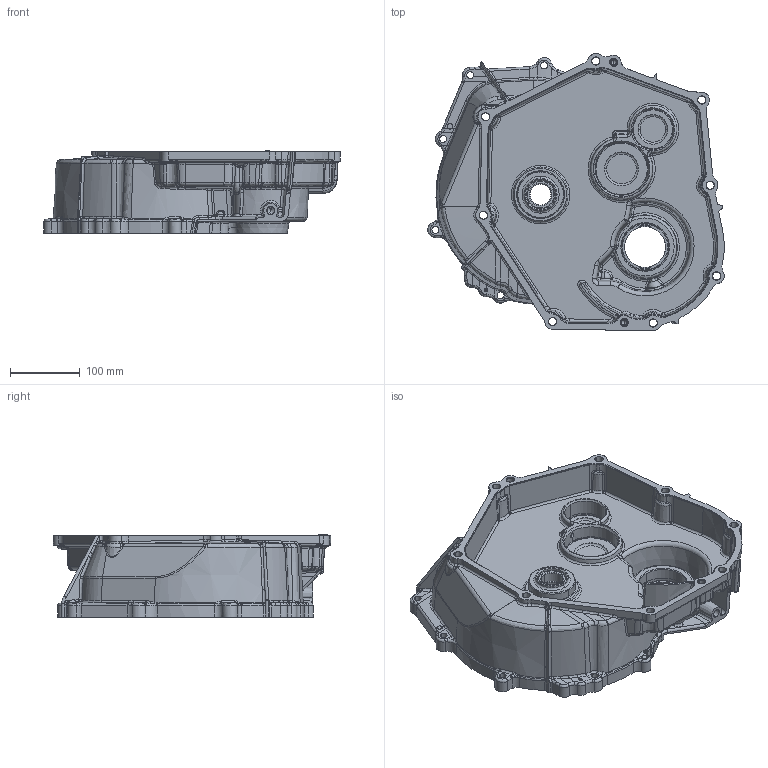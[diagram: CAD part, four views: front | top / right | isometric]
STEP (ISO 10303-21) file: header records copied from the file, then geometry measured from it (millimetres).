
FILE_DESCRIPTION(/* description */ ('AP242 STEP file','CAx-IF Rec.Pracs.---Representation and Presentation of Product Manufacturing Information (PMI)---4.0.9---2020-12-09','CAx-IF Rec.Pracs.---User Defined Attributes---1.8---2021-02-18','CAx-IF Rec.Pracs.---3D Tessellated Geometry---1.0---2015-12-17','CAx-IF Rec.Pracs.---Model Styling and Organization---1.6---2018-08-17'),/* implementation_level */ '2;1');
FILE_NAME(/* name */ '123456789.stp',/* time_stamp */ '2024-03-03T13:57:47+09:00',/* author */ (''),/* organization */ (''),/* preprocessor_version */ 'ST-DEVELOPER v20',/* originating_system */ 'Elysium STEP Translator v10.0.0.7',/* authorisation */ '');
FILE_SCHEMA (('AP242_MANAGED_MODEL_BASED_3D_ENGINEERING_MIM_LF { 1 0 10303 442 4 1 4 }'));
Products named in the file (1): 123456789
Bounding box: 425.6 x 397.9 x 118.2 mm (x, y, z)
Volume: 1562045.6 mm3; surface area: 657427.3 mm2
Topology: 1 solids, 48 shells, 2133 faces, 6411 edges, 5743 vertices
Faces by surface type: cylinder 685, bspline 413, torus 411, cone 237, plane 191, sphere 144, revolution 30, extrusion 22
Entity records: 132422 total; most frequent: CARTESIAN_POINT 64772, STYLED_ITEM 10711, ORIENTED_EDGE 9738, EDGE_CURVE 4959, COORDINATES_LIST 4266, TESSELLATED_CURVE_SET 4141, AXIS2_PLACEMENT_3D 3938, DIRECTION 3054
